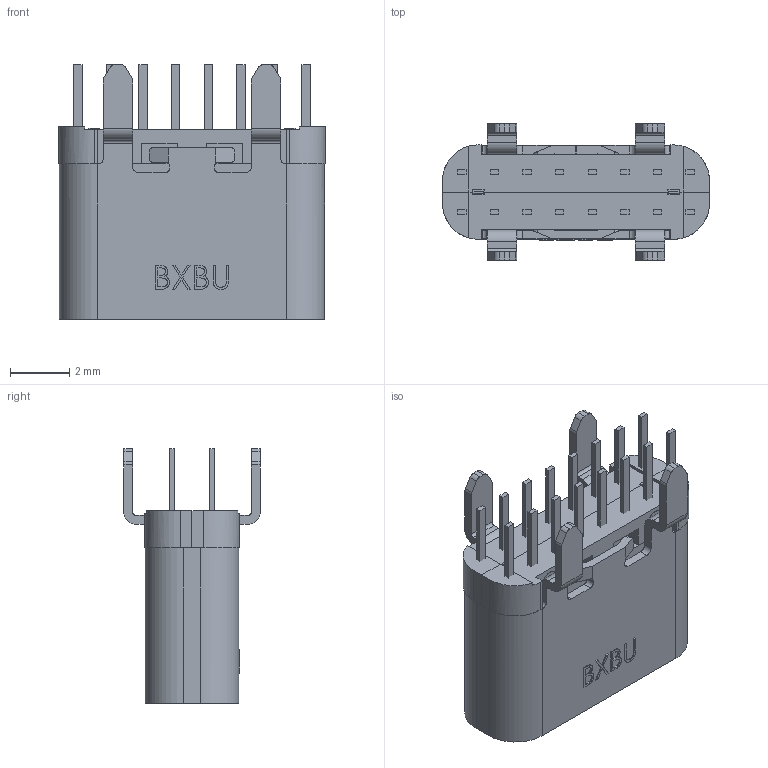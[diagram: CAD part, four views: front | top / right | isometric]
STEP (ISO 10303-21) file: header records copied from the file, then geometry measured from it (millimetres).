
FILE_DESCRIPTION (( 'STEP AP203' ), '1' );
FILE_NAME ('U5383-16PN2.1J6.5L.STEP', '2026-09-22T05:41:39', ( '' ), ( '' ), 'SwSTEP 2.0', 'SolidWorks 2024', '' );
FILE_SCHEMA (( 'CONFIG_CONTROL_DESIGN' ));
Length unit declared in the file: millimetre
Products named in the file (3): 2026091546; U5383-16PN2.1J6.5L; U5383-16PN2.1J6.5L(2)
Assembly tree (2 placements, depth 3):
  U5383-16PN2.1J6.5L
    U5383-16PN2.1J6.5L(2)
      2026091546
Bounding box: 9 x 4.6 x 8.6 mm (x, y, z)
Surface area: 804.9 mm2 (no closed solid volume)
Topology: 0 solids, 37 shells, 1601 faces, 5038 edges, 3360 vertices
Faces by surface type: plane 1110, cylinder 434, bspline 57
Entity records: 62159 total; most frequent: CARTESIAN_POINT 27556, ORIENTED_EDGE 9500, EDGE_CURVE 5038, B_SPLINE_CURVE_WITH_KNOTS 4877, VERTEX_POINT 3360, DIRECTION 3233, EDGE_LOOP 1640, FACE_OUTER_BOUND 1601
